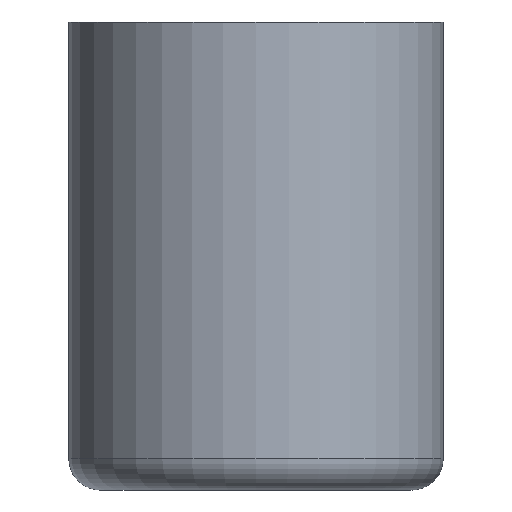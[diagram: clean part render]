
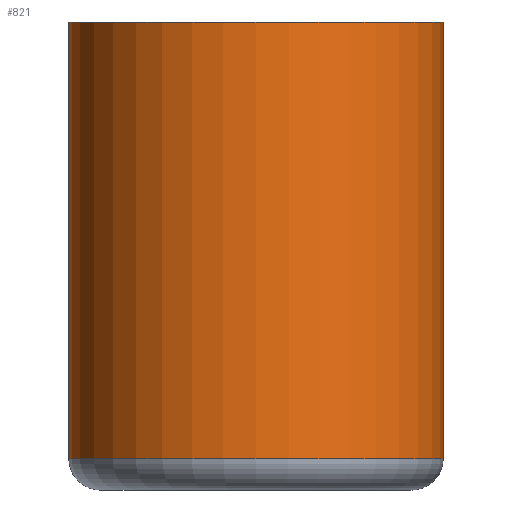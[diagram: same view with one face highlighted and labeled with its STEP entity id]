
A CAD part, left-side view. The second image highlights one B-rep face of the part: STEP entity #821.
In plain terms, the highlighted cylindrical face has radius 12 mm (diameter 24 mm), a partial arc.
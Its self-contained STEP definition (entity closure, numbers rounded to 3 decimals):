
#82=LINE('',#1245,#161);
#85=LINE('',#1251,#164);
#161=VECTOR('',#1005,10.);
#164=VECTOR('',#1010,10.);
#238=CYLINDRICAL_SURFACE('',#904,12.);
#254=FACE_OUTER_BOUND('',#309,.T.);
#309=EDGE_LOOP('',(#615,#616,#617,#618));
#386=CIRCLE('',#895,12.);
#391=CIRCLE('',#905,12.);
#410=VERTEX_POINT('',#1220);
#413=VERTEX_POINT('',#1225);
#418=VERTEX_POINT('',#1244);
#420=VERTEX_POINT('',#1250);
#490=EDGE_CURVE('',#413,#410,#386,.T.);
#499=EDGE_CURVE('',#418,#410,#82,.T.);
#502=EDGE_CURVE('',#413,#420,#85,.T.);
#503=EDGE_CURVE('',#420,#418,#391,.T.);
#615=ORIENTED_EDGE('',*,*,#490,.F.);
#616=ORIENTED_EDGE('',*,*,#502,.T.);
#617=ORIENTED_EDGE('',*,*,#503,.T.);
#618=ORIENTED_EDGE('',*,*,#499,.T.);
#821=ADVANCED_FACE('',(#254),#238,.T.);
#895=AXIS2_PLACEMENT_3D('',#1227,#983,#984);
#904=AXIS2_PLACEMENT_3D('',#1249,#1008,#1009);
#905=AXIS2_PLACEMENT_3D('',#1252,#1011,#1012);
#983=DIRECTION('center_axis',(0.,0.,-1.));
#984=DIRECTION('ref_axis',(-1.,0.,0.));
#1005=DIRECTION('',(0.,0.,-1.));
#1008=DIRECTION('center_axis',(0.,0.,-1.));
#1009=DIRECTION('ref_axis',(-0.707,0.707,0.));
#1010=DIRECTION('',(0.,0.,1.));
#1011=DIRECTION('center_axis',(0.,0.,-1.));
#1012=DIRECTION('ref_axis',(-0.707,-0.707,0.));
#1220=CARTESIAN_POINT('',(-10.,12.,-26.));
#1225=CARTESIAN_POINT('',(-10.,-12.,-26.));
#1227=CARTESIAN_POINT('Origin',(-10.,0.,-26.));
#1244=CARTESIAN_POINT('',(-10.,12.,2.));
#1245=CARTESIAN_POINT('',(-10.,12.,0.));
#1249=CARTESIAN_POINT('Origin',(-10.,0.,0.));
#1250=CARTESIAN_POINT('',(-10.,-12.,2.));
#1251=CARTESIAN_POINT('',(-10.,-12.,0.));
#1252=CARTESIAN_POINT('Origin',(-10.,0.,2.));
